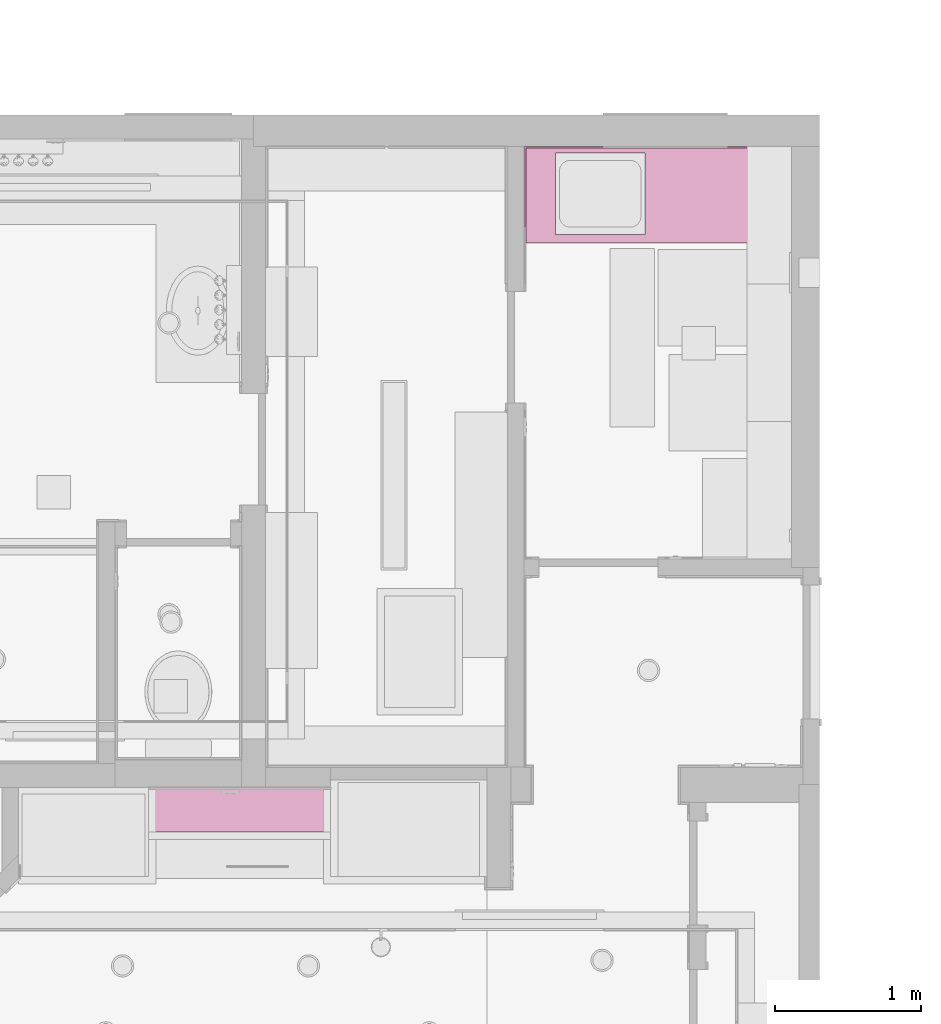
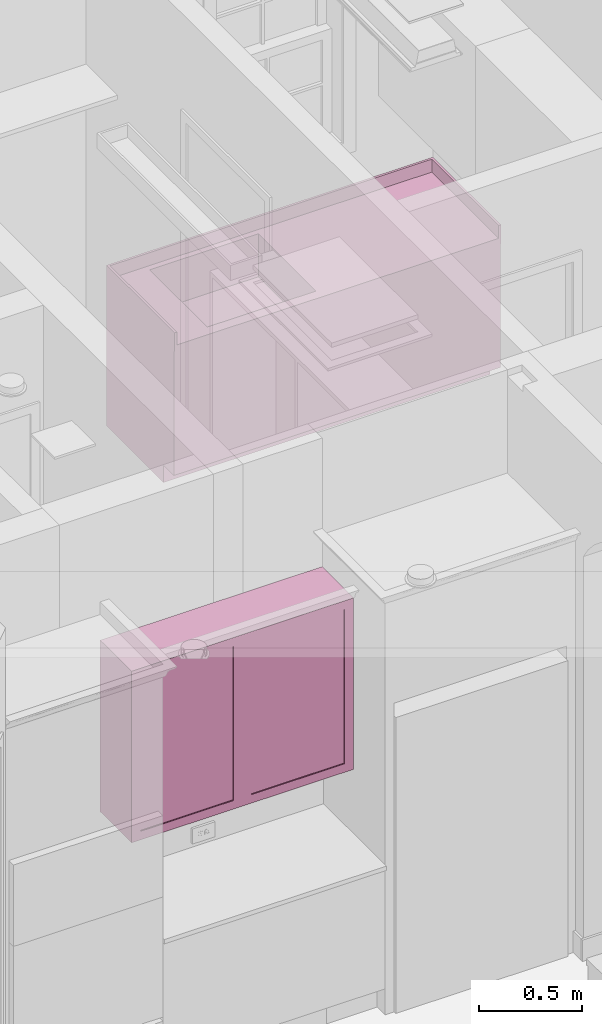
# One storey, part 59 of 81: 2 furnishings.
"""IFC2X3 building model written with IfcOpenShell, lengths in feet."""

from ifc_helpers import new_model, entity, si_unit, converted_unit, derived_unit, direction, frame, origin, place, context, subcontext, project, spatial, faceted_brep, source, transform, mapped, material, material_list, type_object, type_shapes, element, save


model = new_model("IFC2X3")

# Units and contexts
model_context = context("Model", 3, precision=0.0001, world=origin(), true_north=direction((6.12303176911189e-17, 1.0)))
body_context = subcontext(model_context, "Body", "Model", "MODEL_VIEW")
ifc_project = project(units=[converted_unit("LENGTHUNIT", "FOOT", entity("IfcRatioMeasure", 0.3048), si_unit("LENGTHUNIT", "METRE"), dimensions=[1, 0, 0, 0, 0, 0, 0]), converted_unit("AREAUNIT", "SQUARE FOOT", entity("IfcRatioMeasure", 0.09290304), si_unit("AREAUNIT", "SQUARE_METRE"), dimensions=[2, 0, 0, 0, 0, 0, 0]), converted_unit("VOLUMEUNIT", "CUBIC FOOT", entity("IfcRatioMeasure", 0.028316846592), si_unit("VOLUMEUNIT", "CUBIC_METRE"), dimensions=[3, 0, 0, 0, 0, 0, 0]), converted_unit("PLANEANGLEUNIT", "DEGREE", entity("IfcRatioMeasure", 0.0174532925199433), si_unit("PLANEANGLEUNIT", "RADIAN"), dimensions=[0, 0, 0, 0, 0, 0, 0]), si_unit("MASSUNIT", "GRAM", prefix="KILO"), derived_unit("MASSDENSITYUNIT", [(si_unit("MASSUNIT", "GRAM", prefix="KILO"), 1), (si_unit("LENGTHUNIT", "METRE"), -3)]), derived_unit("MOMENTOFINERTIAUNIT", [(si_unit("LENGTHUNIT", "METRE"), 4)]), si_unit("TIMEUNIT", "SECOND"), si_unit("FREQUENCYUNIT", "HERTZ"), si_unit("THERMODYNAMICTEMPERATUREUNIT", "DEGREE_CELSIUS"), derived_unit("THERMALTRANSMITTANCEUNIT", [(si_unit("MASSUNIT", "GRAM", prefix="KILO"), 1), (si_unit("THERMODYNAMICTEMPERATUREUNIT", "KELVIN"), -1), (si_unit("TIMEUNIT", "SECOND"), -3)]), derived_unit("VOLUMETRICFLOWRATEUNIT", [(si_unit("LENGTHUNIT", "METRE"), 3), (si_unit("TIMEUNIT", "SECOND"), -1)]), si_unit("ELECTRICCURRENTUNIT", "AMPERE"), si_unit("ELECTRICVOLTAGEUNIT", "VOLT"), si_unit("POWERUNIT", "WATT"), si_unit("FORCEUNIT", "NEWTON"), si_unit("ILLUMINANCEUNIT", "LUX"), si_unit("LUMINOUSFLUXUNIT", "LUMEN"), si_unit("LUMINOUSINTENSITYUNIT", "CANDELA"), derived_unit("USERDEFINED", [(si_unit("MASSUNIT", "GRAM", prefix="KILO"), -1), (si_unit("LENGTHUNIT", "METRE"), -2), (si_unit("TIMEUNIT", "SECOND"), 3), (si_unit("LUMINOUSFLUXUNIT", "LUMEN"), 1)]), derived_unit("LINEARVELOCITYUNIT", [(si_unit("LENGTHUNIT", "METRE"), 1), (si_unit("TIMEUNIT", "SECOND"), -1)]), si_unit("PRESSUREUNIT", "PASCAL"), derived_unit("USERDEFINED", [(si_unit("LENGTHUNIT", "METRE"), -2), (si_unit("MASSUNIT", "GRAM", prefix="KILO"), 1), (si_unit("TIMEUNIT", "SECOND"), -2)]), derived_unit("LINEARFORCEUNIT", [(si_unit("MASSUNIT", "GRAM", prefix="KILO"), 1), (si_unit("LENGTHUNIT", "METRE"), 1), (si_unit("TIMEUNIT", "SECOND"), -2), (si_unit("LENGTHUNIT", "METRE"), -1)]), derived_unit("PLANARFORCEUNIT", [(si_unit("MASSUNIT", "GRAM", prefix="KILO"), 1), (si_unit("LENGTHUNIT", "METRE"), 1), (si_unit("TIMEUNIT", "SECOND"), -2), (si_unit("LENGTHUNIT", "METRE"), -2)])], contexts=[model_context])

# Site, building, storey
site_placement = place(None, origin())
site = spatial("IfcSite", under=ifc_project, at=site_placement, Name="Default", CompositionType="ELEMENT")
building_placement = place(site_placement, origin())
building = spatial("IfcBuilding", under=site, at=building_placement, CompositionType="ELEMENT")
storey_placement = place(building_placement, origin())
storey = spatial("IfcBuildingStorey", under=building, at=storey_placement, Name="First floor", CompositionType="ELEMENT", Elevation=0.0)

# Furnishings
ifc_material_1 = material(Name="Default New Material")
furniture_type_1 = type_object("IfcFurnitureType", Name="Casework 3:Casework 3", material=ifc_material_1)
shared_shape_1 = source(origin(), body_context, "Body", "Brep", [
    faceted_brep([(0.0, 2.125, 3.125), (0.0, 0.0, 3.125), (0.0416666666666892, 0.0, 3.125), (0.0416666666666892, 2.125, 3.125), (5.95833333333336, 2.125, 3.125), (5.95833333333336, 0.0, 3.125), (6.0, 0.0, 3.125), (6.0, 2.16666666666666, 3.125), (0.0, 2.16666666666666, 3.125), (0.0, 2.125, 2.875), (0.0, 2.16666666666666, 2.875), (6.0, 2.16666666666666, 2.875), (6.0, 0.0, 2.875), (5.95833333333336, 0.0, 2.875), (5.95833333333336, 2.125, 2.875), (0.0416666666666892, 2.125, 2.875), (0.0416666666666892, 0.0, 2.875), (0.0, 0.0, 2.875)], [[[0, 1, 2, 3, 4, 5, 6, 7, 8]], [[9, 10, 11, 12, 13, 14, 15, 16, 17]], [[1, 0, 9, 17]], [[2, 1, 17, 16]], [[3, 2, 16, 15]], [[4, 3, 15, 14]], [[5, 4, 14, 13]], [[6, 5, 13, 12]], [[7, 6, 12, 11]], [[8, 7, 11, 10]], [[0, 8, 10, 9]]]),
    faceted_brep([(6.0, 2.16666666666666, 2.75), (6.0, 0.0, 2.75), (0.0, 0.0, 2.75), (0.0, 2.16666666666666, 2.75), (0.708333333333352, 2.02083333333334, 2.75), (0.708333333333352, 0.187499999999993, 2.75), (2.70833333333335, 0.187499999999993, 2.75), (2.70833333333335, 2.02083333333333, 2.75), (6.0, 2.16666666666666, 2.875), (0.0, 2.16666666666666, 2.875), (0.0, 0.0, 2.875), (6.0, 0.0, 2.875), (0.708333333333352, 0.187499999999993, 2.875), (0.708333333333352, 2.02083333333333, 2.875), (2.70833333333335, 2.02083333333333, 2.875), (2.70833333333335, 0.187499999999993, 2.875)], [[[0, 1, 2, 3], [4, 5, 6, 7]], [[8, 9, 10, 11], [12, 13, 14, 15]], [[0, 3, 9, 8]], [[3, 2, 10, 9]], [[2, 1, 11, 10]], [[1, 0, 8, 11]], [[12, 5, 4, 13]], [[13, 4, 7, 14]], [[14, 7, 6, 15]], [[5, 12, 15, 6]]]),
    faceted_brep([(6.0, 2.16666666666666, 2.75), (0.0, 2.16666666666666, 2.75), (0.0, 0.0208333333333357, 2.75), (6.0, 0.0208333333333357, 2.75), (0.708333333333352, 0.187499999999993, 2.75), (0.708333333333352, 2.02083333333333, 2.75), (2.70833333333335, 2.02083333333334, 2.75), (2.70833333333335, 0.187499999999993, 2.75), (0.0, 2.16666666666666, 0.0), (6.0, 2.16666666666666, 0.0), (6.0, 0.354166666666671, 0.0), (0.0, 0.354166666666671, 0.0), (0.0, 0.354166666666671, 0.33854166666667), (0.0, 0.0208333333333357, 0.33854166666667), (6.0, 0.0208333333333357, 0.33854166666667), (6.0, 0.354166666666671, 0.33854166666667), (0.708333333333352, 0.187499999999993, 2.04166666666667), (2.70833333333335, 0.187499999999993, 2.04166666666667), (2.70833333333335, 2.02083333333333, 2.04166666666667), (0.708333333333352, 2.02083333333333, 2.04166666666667)], [[[0, 1, 2, 3], [4, 5, 6, 7]], [[8, 9, 10, 11]], [[1, 0, 9, 8]], [[2, 1, 8, 11, 12, 13]], [[3, 2, 13, 14]], [[0, 3, 14, 15, 10, 9]], [[15, 12, 11, 10]], [[12, 15, 14, 13]], [[16, 17, 18, 19]], [[16, 19, 5, 4]], [[19, 18, 6, 5]], [[18, 17, 7, 6]], [[17, 16, 4, 7]]]),
])
type_shapes(furniture_type_1, [shared_shape_1])
furnishing_1_placement = place(storey_placement, frame((13.75, 45.1663215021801, 10.6666666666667)))
element("IfcFurnishingElement", 1, at=furnishing_1_placement, inside=storey, type_object=furniture_type_1, material=ifc_material_1, Name="Casework 3:Casework 3", ObjectType="Casework 3:Casework 3", context=body_context, shape_type="MappedRepresentation", body=[
    mapped(shared_shape_1, transform((0.0, 0.0, 0.0), scale=1.0)),
])
ifc_material_2 = material(Name="Glass")
ifc_material_list = material_list([ifc_material_1, ifc_material_2])
furniture_type_2 = type_object("IfcFurnitureType", Name="Casework_4:Casework_4", material=ifc_material_1)
shared_shape_2 = source(origin(), body_context, "Body", "Brep", [
    faceted_brep([(-2.04182942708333, 0.0, 3.33333333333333), (2.04182942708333, 0.0, 3.33333333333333), (2.04182942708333, 1.0, 3.33333333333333), (-2.04182942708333, 1.0, 3.33333333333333), (2.04182942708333, 0.0, 0.0), (-2.04182942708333, 0.0, 0.0), (-2.04182942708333, 1.0, 0.0), (2.04182942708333, 1.0, 0.0), (-1.95849609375, 0.125, 3.25), (1.95849609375, 0.125, 3.25), (1.95849609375, 0.125, 0.0833333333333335), (-1.95849609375, 0.125, 0.0833333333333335), (1.95849609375, 0.916666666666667, 3.25), (-1.95849609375, 0.916666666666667, 3.25), (1.95849609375, 0.916666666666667, 0.0833333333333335), (-1.95849609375, 0.916666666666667, 0.0833333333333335), (0.166666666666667, 1.0, 3.16458690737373), (0.166666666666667, 1.0, 0.166666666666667), (1.87516276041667, 1.0, 0.166666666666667), (1.87516276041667, 1.0, 3.16458690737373), (-0.166666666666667, 1.0, 0.166666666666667), (-0.166666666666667, 1.0, 3.16666666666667), (-1.87516276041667, 1.0, 3.16666666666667), (-1.87516276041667, 1.0, 0.166666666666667), (0.166666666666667, 0.916666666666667, 3.16458690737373), (1.87516276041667, 0.916666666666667, 3.16458690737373), (1.87516276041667, 0.916666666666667, 0.166666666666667), (0.166666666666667, 0.916666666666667, 0.166666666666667), (-0.166666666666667, 0.916666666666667, 0.166666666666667), (-1.87516276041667, 0.916666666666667, 0.166666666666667), (-1.87516276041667, 0.916666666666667, 3.16666666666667), (-0.166666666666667, 0.916666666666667, 3.16666666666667)], [[[0, 1, 2, 3]], [[4, 5, 6, 7]], [[1, 0, 5, 4]], [[6, 5, 0, 3]], [[8, 9, 10, 11]], [[2, 1, 4, 7]], [[12, 9, 8, 13]], [[9, 12, 14, 10]], [[10, 14, 15, 11]], [[13, 8, 11, 15]], [[2, 7, 6, 3], [16, 17, 18, 19], [20, 21, 22, 23]], [[12, 13, 15, 14], [24, 25, 26, 27], [28, 29, 30, 31]], [[16, 19, 25, 24]], [[19, 18, 26, 25]], [[20, 23, 29, 28]], [[23, 22, 30, 29]], [[18, 17, 27, 26]], [[17, 16, 24, 27]], [[22, 21, 31, 30]], [[21, 20, 28, 31]]]),
    faceted_brep([(-0.166666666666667, 0.979166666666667, 3.16458690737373), (-0.166666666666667, 0.979166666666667, 0.166666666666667), (-1.87516276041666, 0.979166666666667, 0.166666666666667), (-1.87516276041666, 0.979166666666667, 3.16458690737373), (-1.87516276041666, 0.9375, 3.16458690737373), (-0.166666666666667, 0.9375, 3.16458690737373), (-1.87516276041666, 0.9375, 0.166666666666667), (-0.166666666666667, 0.9375, 0.166666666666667)], [[[0, 1, 2, 3]], [[0, 3, 4, 5]], [[3, 2, 6, 4]], [[2, 1, 7, 6]], [[1, 0, 5, 7]], [[5, 4, 6, 7]]]),
    faceted_brep([(0.166666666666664, 0.9375, 0.166666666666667), (1.87516276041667, 0.9375, 0.166666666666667), (1.87516276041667, 0.9375, 3.16458690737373), (0.166666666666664, 0.9375, 3.16458690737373), (0.166666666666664, 0.979166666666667, 0.166666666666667), (1.87516276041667, 0.979166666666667, 0.166666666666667), (1.87516276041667, 0.979166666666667, 3.16458690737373), (0.166666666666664, 0.979166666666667, 3.16458690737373)], [[[0, 1, 2, 3]], [[4, 5, 1, 0]], [[5, 6, 2, 1]], [[6, 7, 3, 2]], [[7, 4, 0, 3]], [[4, 7, 6, 5]]]),
])
type_shapes(furniture_type_2, [shared_shape_2])
furnishing_2_placement = place(storey_placement, frame((7.37482561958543, 32.9583333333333, 14.8333333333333), z_axis=(0.0, 0.0, 1.0), x_axis=(-1.0, 0.0, 0.0)))
element("IfcFurnishingElement", 2, at=furnishing_2_placement, inside=storey, type_object=furniture_type_2, material=ifc_material_list, Name="Casework_4:Casework_4", ObjectType="Casework_4:Casework_4", context=body_context, shape_type="MappedRepresentation", body=[
    mapped(shared_shape_2, transform((0.0, 0.0, 0.0), scale=1.0)),
])

save(model, "model.ifc")
